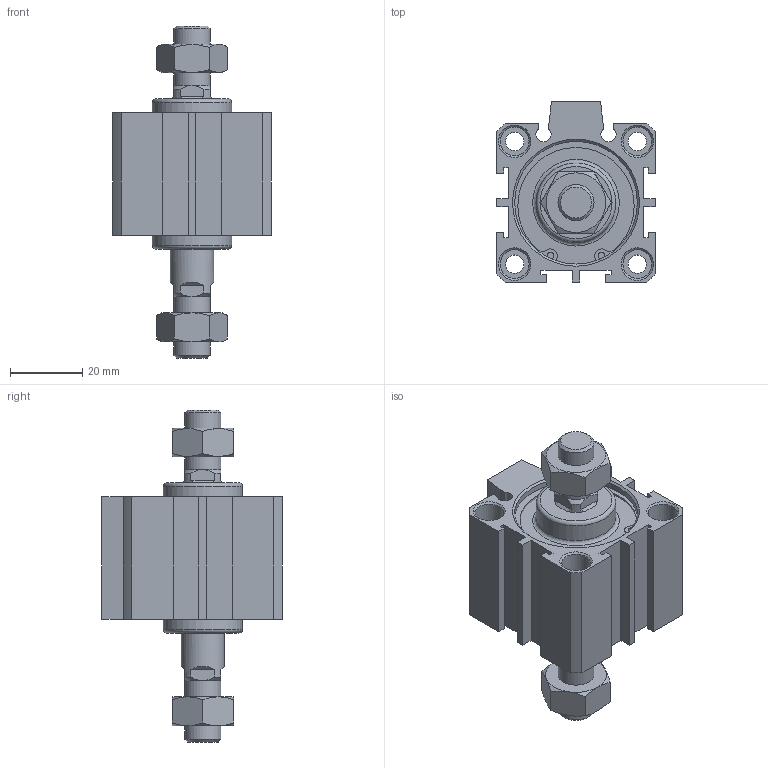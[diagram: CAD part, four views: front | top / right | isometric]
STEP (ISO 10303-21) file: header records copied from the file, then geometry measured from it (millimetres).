
FILE_DESCRIPTION((''),'2;1');
FILE_NAME('I:\3D電子目錄\氣缸\JDD\JDD-B\JDD32-B\JDD32x10-B.stp','2007-02-09T16:39:10',('662F206'),(''),'Autodesk Inventor 10','Autodesk Inventor 10','');
FILE_SCHEMA(('AUTOMOTIVE_DESIGN { 1 0 10303 214 1 1 1 1 }'));
Length unit declared in the file: millimetre
Products named in the file (3): JDD32-B; R 形環 35
Assembly tree (3 placements, depth 2):
  JDD32-B
    JDD32-B
    R 形環 35  x2
Bounding box: 44 x 50 x 92 mm (x, y, z)
Volume: 63495.1 mm3; surface area: 21799.1 mm2
Topology: 3 solids, 3 shells, 207 faces, 489 edges, 314 vertices
Faces by surface type: plane 112, cylinder 53, cone 38, bspline 2, torus 2
Full cylindrical faces by diameter (mm): 1.9 x4, 2.2 x2, 5.1 x4, 8 x8, 10 x4, 12 x1, 22 x2, 34 x4, 36 x2
Entity records: 5397 total; most frequent: CARTESIAN_POINT 1081, DIRECTION 894, ORIENTED_EDGE 802, EDGE_CURVE 401, AXIS2_PLACEMENT_3D 346, VERTEX_POINT 287, EDGE_LOOP 284, VECTOR 202
